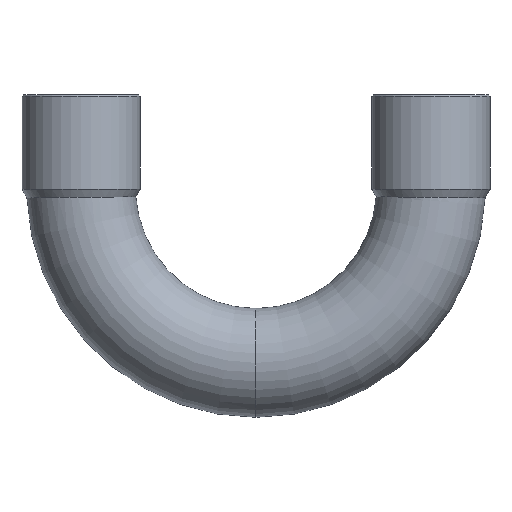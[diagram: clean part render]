
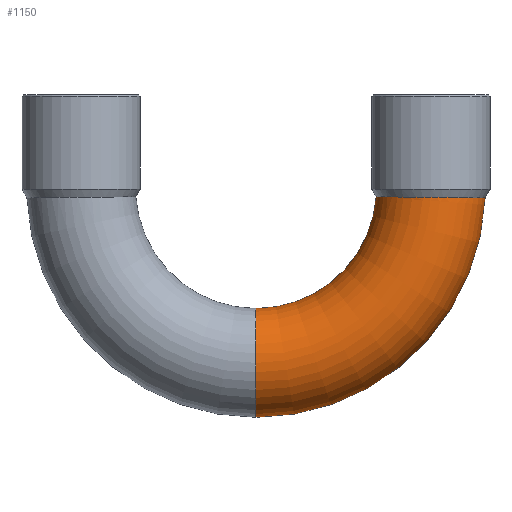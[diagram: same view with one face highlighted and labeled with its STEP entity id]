
A CAD part, front view. The second image highlights one B-rep face of the part: STEP entity #1150.
In plain terms, the highlighted toroidal (fillet/blend) face has major radius 22.5 mm and minor radius 7 mm.
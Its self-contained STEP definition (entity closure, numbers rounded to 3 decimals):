
#51=CARTESIAN_POINT('',(22.035,0.,-29.5));
#52=VERTEX_POINT('',#51);
#85=CARTESIAN_POINT('',(22.035,0.,-15.5));
#86=VERTEX_POINT('',#85);
#109=CARTESIAN_POINT('',(51.509,0.,-1.246));
#110=VERTEX_POINT('',#109);
#111=CARTESIAN_POINT('',(22.035,0.,0.0));
#112=DIRECTION('',(0.0,-1.0,0.0));
#113=DIRECTION('',(0.0,0.0,-1.0));
#114=AXIS2_PLACEMENT_3D('',#111,#112,#113);
#115=CIRCLE('',#114,29.5);
#116=EDGE_CURVE('',#52,#110,#115,.T.);
#119=CARTESIAN_POINT('',(37.494,0.,-1.129));
#120=VERTEX_POINT('',#119);
#121=CARTESIAN_POINT('',(22.035,0.,0.0));
#122=DIRECTION('',(0.0,1.0,0.0));
#123=DIRECTION('',(0.0,0.0,-1.0));
#124=AXIS2_PLACEMENT_3D('',#121,#122,#123);
#125=CIRCLE('',#124,15.5);
#126=EDGE_CURVE('',#120,#86,#125,.T.);
#1111=CARTESIAN_POINT('',(22.035,0.,0.0));
#1112=DIRECTION('',(0.0,-1.0,0.0));
#1113=DIRECTION('',(0.0,0.0,-1.0));
#1114=AXIS2_PLACEMENT_3D('',#1111,#1112,#1113);
#1115=TOROIDAL_SURFACE('',#1114,22.5,7.);
#1116=ORIENTED_EDGE('',*,*,#116,.T.);
#1117=CARTESIAN_POINT('',(51.509,0.,-1.246));
#1118=CARTESIAN_POINT('',(51.509,-0.516,-1.246));
#1119=CARTESIAN_POINT('',(51.452,-1.03,-1.245));
#1120=CARTESIAN_POINT('',(51.226,-2.037,-1.244));
#1121=CARTESIAN_POINT('',(51.057,-2.526,-1.243));
#1122=CARTESIAN_POINT('',(50.447,-3.816,-1.24));
#1123=CARTESIAN_POINT('',(49.899,-4.556,-1.237));
#1124=CARTESIAN_POINT('',(48.551,-5.786,-1.228));
#1125=CARTESIAN_POINT('',(47.763,-6.263,-1.223));
#1126=CARTESIAN_POINT('',(46.048,-6.888,-1.212));
#1127=CARTESIAN_POINT('',(45.137,-7.031,-1.205));
#1128=CARTESIAN_POINT('',(43.312,-6.958,-1.19));
#1129=CARTESIAN_POINT('',(42.415,-6.744,-1.182));
#1130=CARTESIAN_POINT('',(40.754,-5.984,-1.166));
#1131=CARTESIAN_POINT('',(40.007,-5.446,-1.159));
#1132=CARTESIAN_POINT('',(38.761,-4.115,-1.145));
#1133=CARTESIAN_POINT('',(38.274,-3.335,-1.139));
#1134=CARTESIAN_POINT('',(37.648,-1.69,-1.131));
#1135=CARTESIAN_POINT('',(37.494,-0.848,-1.129));
#1136=CARTESIAN_POINT('',(37.494,0.,-1.129));
#1137=B_SPLINE_CURVE_WITH_KNOTS('',3,(#1117,#1118,#1119,#1120,#1121,#1122,#1123,#1124,#1125,#1126,#1127,#1128,#1129,#1130,#1131,#1132,#1133,#1134,#1135,#1136),.UNSPECIFIED.,.F.,.U.,(4,2,2,2,2,2,2,2,2,4),(-4.414,-4.259,-4.104,-3.831,-3.557,-3.283,-3.009,-2.735,-2.462,-2.207),.UNSPECIFIED.);
#1138=EDGE_CURVE('',#110,#120,#1137,.T.);
#1139=ORIENTED_EDGE('',*,*,#1138,.T.);
#1140=ORIENTED_EDGE('',*,*,#126,.T.);
#1141=CARTESIAN_POINT('',(22.035,0.,-22.5));
#1142=DIRECTION('',(-1.0,0.0,0.0));
#1143=DIRECTION('',(0.0,0.0,-1.0));
#1144=AXIS2_PLACEMENT_3D('',#1141,#1142,#1143);
#1145=CIRCLE('',#1144,7.);
#1146=EDGE_CURVE('',#52,#86,#1145,.T.);
#1147=ORIENTED_EDGE('',*,*,#1146,.F.);
#1148=EDGE_LOOP('',(#1116,#1139,#1140,#1147));
#1149=FACE_OUTER_BOUND('',#1148,.T.);
#1150=ADVANCED_FACE('',(#1149),#1115,.T.);
